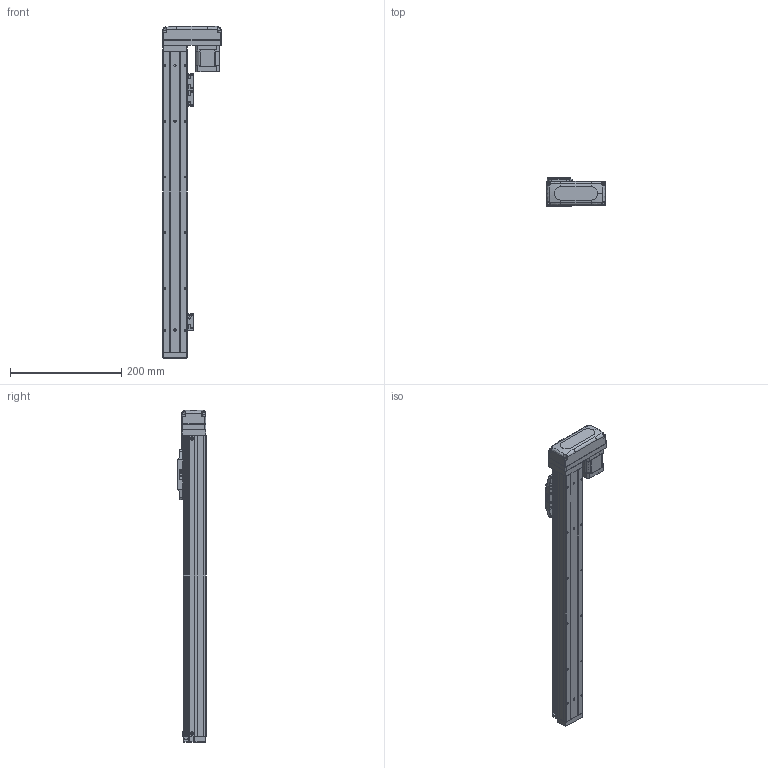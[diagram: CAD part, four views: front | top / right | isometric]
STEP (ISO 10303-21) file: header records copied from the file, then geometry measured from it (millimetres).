
FILE_DESCRIPTION (( 'STEP AP203' ), '1' );
FILE_NAME ('GTH4-400-BL-B42-C4.step', '2023-02-14T00:18:35', ( '微软用户' ), ( '微软中国' ), 'SwSTEP 2.0', 'SolidWorks 2020', '' );
FILE_SCHEMA (( 'CONFIG_CONTROL_DESIGN' ));
Length unit declared in the file: millimetre
Products named in the file (19): BTH40-003; GBT 70.1-M3℅6; BTH40-027-1; BTH40-006; GBT96.1-2002 3×0.8; BTH50-026; BTH-M3X5X6; BTH40-022; 42CM06; GBT70.1-2000 M3×16; GBT 70.1-M2.5×6; GTH4-400-BL-B42-C4; BTH50-028; BTH40-004; BTH50-023; BTH40-013; BTH40-001-50_BTH40-001-400; BTH50-024; GBT 70.3-M3℅6
Assembly tree (47 placements, depth 2):
  GTH4-400-BL-B42-C4
    BTH40-001-50_BTH40-001-400
    BTH40-003
    BTH40-006
    BTH-M3X5X6  x8
    GBT70.1-2000 M3×16  x4
    BTH50-028  x2
    BTH50-023  x3
    BTH50-024  x3
    GBT 70.1-M3℅6  x6
    GBT96.1-2002 3×0.8  x6
    BTH40-022
    GBT 70.1-M2.5×6  x2
    BTH40-004
    BTH40-013
    GBT 70.3-M3℅6  x4
    BTH40-027-1
    BTH50-026
    42CM06
Bounding box: 105 x 52 x 596 mm (x, y, z)
Volume: 1077411.7 mm3; surface area: 218530.2 mm2
Topology: 56 solids, 56 shells, 3315 faces, 7732 edges, 4626 vertices
Faces by surface type: cone 1488, plane 1076, cylinder 573, torus 124, bspline 42, sphere 12
Entity records: 77390 total; most frequent: CARTESIAN_POINT 13961, DIRECTION 13745, ORIENTED_EDGE 12110, EDGE_CURVE 6055, AXIS2_PLACEMENT_3D 5273, VERTEX_POINT 3613, VECTOR 3199, LINE 3199
